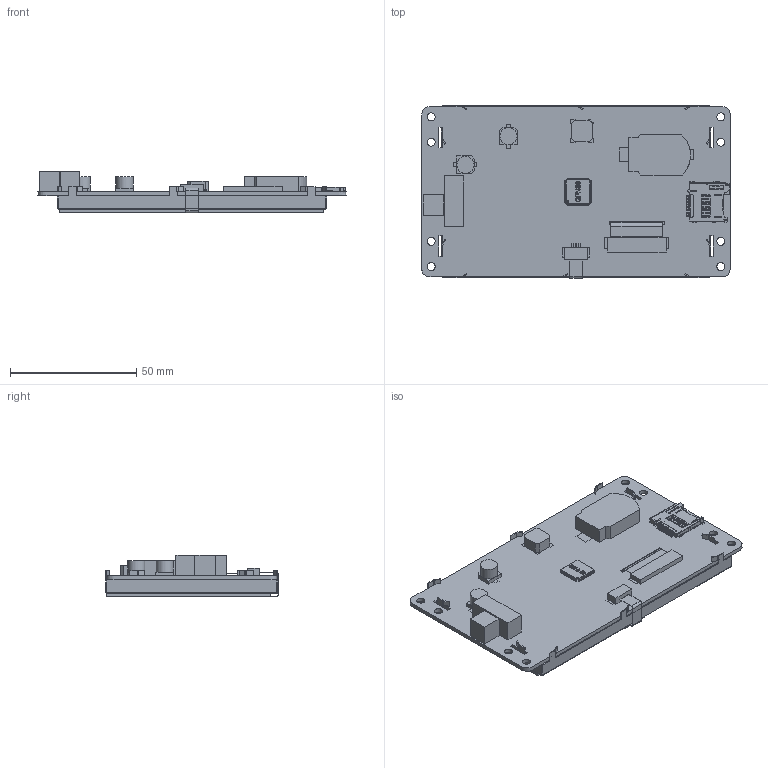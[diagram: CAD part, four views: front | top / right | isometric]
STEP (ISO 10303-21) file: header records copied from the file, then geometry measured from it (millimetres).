
FILE_DESCRIPTION(/* description */ (''),/* implementation_level */ '2;1');
FILE_NAME(/* name */ '',/* time_stamp */ '2022-04-19T14:30:13+08:00',/* author */ (''),/* organization */ (''),/* preprocessor_version */ 'ST-DEVELOPER v11',/* originating_system */ 'SIEMENS PLM Software NX 7.5',/* authorisation */ '');
FILE_SCHEMA (('AP203_CONFIGURATION_CONTROLLED_3D_DESIGN_OF_MECHANICAL_PARTS_AND_ASSEMBLIES_MIM_LF'));
Products named in the file (1): SDWb043T43T
Bounding box: 121.9 x 68.4 x 16.45 mm (x, y, z)
Volume: 29558.3 mm3; surface area: 46062.6 mm2
Topology: 20 solids, 20 shells, 2302 faces, 7400 edges, 6068 vertices
Faces by surface type: plane 1864, cylinder 429, bspline 7, cone 1, extrusion 1
Full cylindrical faces by diameter (mm): 3.2 x8, 6.776 x2
Entity records: 84613 total; most frequent: CARTESIAN_POINT 15082, ORIENTED_EDGE 13226, DIRECTION 12694, EDGE_CURVE 6613, VECTOR 6406, LINE 6405, VERTEX_POINT 4351, AXIS2_PLACEMENT_3D 3144
